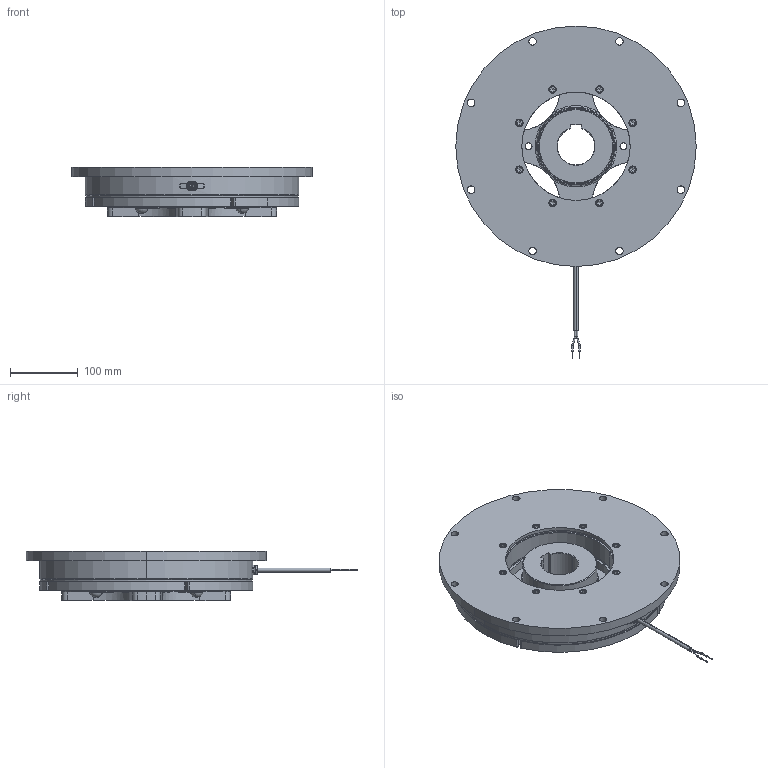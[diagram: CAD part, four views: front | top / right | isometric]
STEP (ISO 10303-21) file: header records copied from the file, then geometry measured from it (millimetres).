
FILE_DESCRIPTION (( 'STEP AP214' ), '1' );
FILE_NAME ('dr_bk_1302-120_mu.STEP', '2026-09-10T08:21:49', ( '' ), ( '' ), 'SwSTEP 2.0', 'SolidWorks 2025', '' );
FILE_SCHEMA (( 'AUTOMOTIVE_DESIGN' ));
Length unit declared in the file: millimetre
Products named in the file (11): 10090970swp000_1302331-0552; 10090963swp000; 10090969swa000; dr_bk_1302-120_mu; 10090962swa000; 10090971swp000; 10090965swp000; 10090964swp000_genietet; 10090966swp000; 10090961swp000; 10090972swp000_genietet
Assembly tree (22 placements, depth 4):
  dr_bk_1302-120_mu
    10090961swp000
    10090969swa000
      10090970swp000_1302331-0552
      10090962swa000
        10090966swp000
        10090965swp000
        10090964swp000_genietet  x4
        10090963swp000  x4
      10090972swp000_genietet  x4
      10090971swp000  x4
Bounding box: 355 x 490.05 x 72.6 mm (x, y, z)
Volume: 4231885.8 mm3; surface area: 527538 mm2
Topology: 22 solids, 22 shells, 649 faces, 1500 edges, 933 vertices
Faces by surface type: cylinder 292, plane 236, cone 66, torus 33, sphere 22
Entity records: 20862 total; most frequent: CARTESIAN_POINT 3139, DIRECTION 3120, ORIENTED_EDGE 2676, EDGE_CURVE 1338, AXIS2_PLACEMENT_3D 1220, VERTEX_POINT 831, VECTOR 680, LINE 680
